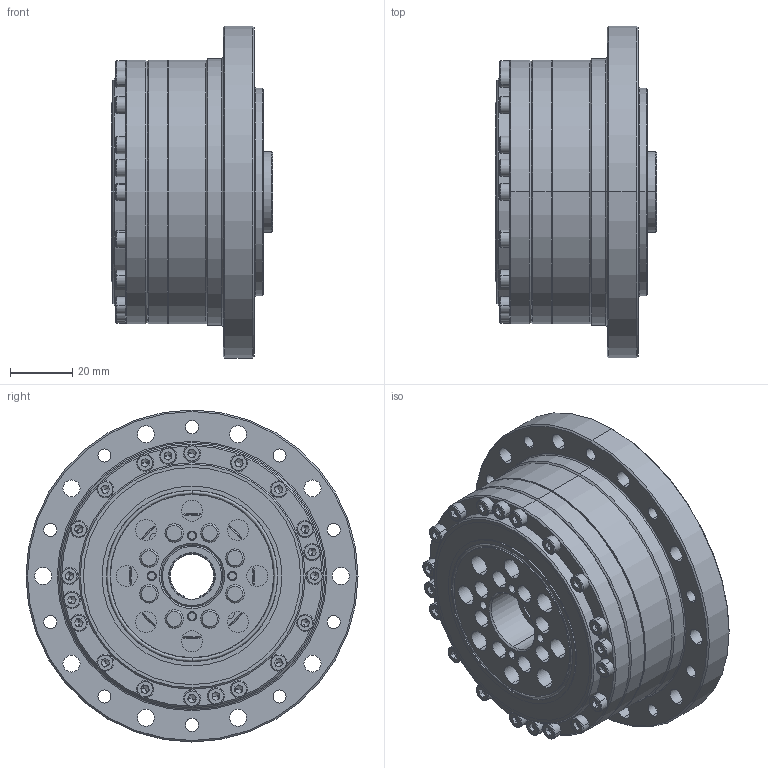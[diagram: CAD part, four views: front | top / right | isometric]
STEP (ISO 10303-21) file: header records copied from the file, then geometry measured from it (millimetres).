
FILE_DESCRIPTION (( 'STEP AP203' ), '1' );
FILE_NAME ('FCG-25-XXX-AO.STEP', '2023-02-22T09:10:09', ( '微软用户' ), ( '微软中国' ), 'SwSTEP 2.0', 'SolidWorks 2016', '' );
FILE_SCHEMA (( 'CONFIG_CONTROL_DESIGN' ));
Products named in the file (1): FCG-25-XXX-AO
Bounding box: 52 x 107 x 107 mm (x, y, z)
Volume: 207354.2 mm3; surface area: 137963.5 mm2
Topology: 74 solids, 74 shells, 1550 faces, 3663 edges, 2221 vertices
Faces by surface type: plane 569, cylinder 549, cone 232, bspline 112, sphere 46, torus 42
Entity records: 53453 total; most frequent: CARTESIAN_POINT 18223, DIRECTION 7716, ORIENTED_EDGE 6920, EDGE_CURVE 3460, AXIS2_PLACEMENT_3D 3069, VERTEX_POINT 2152, EDGE_LOOP 1886, CIRCLE 1630
